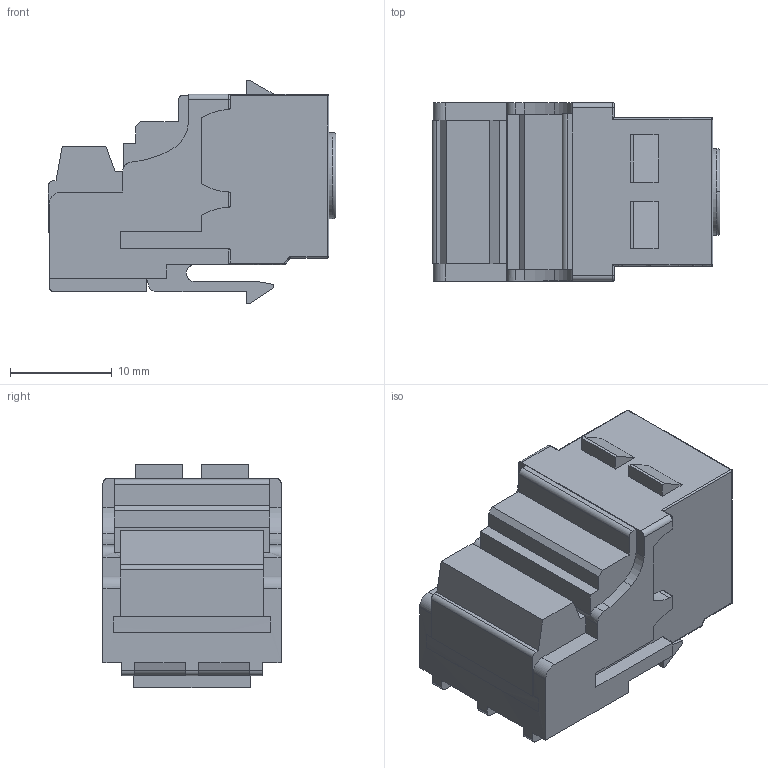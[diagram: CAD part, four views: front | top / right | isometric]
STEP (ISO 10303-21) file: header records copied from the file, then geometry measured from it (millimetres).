
FILE_DESCRIPTION( ('This file contains a STEP AP42 implementation' ,'as created by ZW3D STEP Interface translator.') ,'2;1' );
FILE_NAME( 'TB-042_310RCAxx2STBK_SD.stp' ,'26 330.134527', (''), ('ZWCAD Software Co.'), 'Version 1.0', 'ZW3D to STEP translator', '' );
FILE_SCHEMA(('AUTOMOTIVE_DESIGN'));
Length unit declared in the file: millimetre
Products named in the file (2): 0; TB-042_310RCAxx2STBK_SD
Bounding box: 28.29 x 17.5 x 21.99 mm (x, y, z)
Volume: 6139.6 mm3; surface area: 3823.4 mm2
Topology: 1 solids, 1 shells, 173 faces, 456 edges, 291 vertices
Faces by surface type: bspline 173
Entity records: 8236 total; most frequent: CARTESIAN_POINT 5277, ORIENTED_EDGE 912, B_SPLINE_CURVE_WITH_KNOTS 456, EDGE_CURVE 456, VERTEX_POINT 291, EDGE_LOOP 179, FACE_OUTER_BOUND 173, ADVANCED_FACE 173
